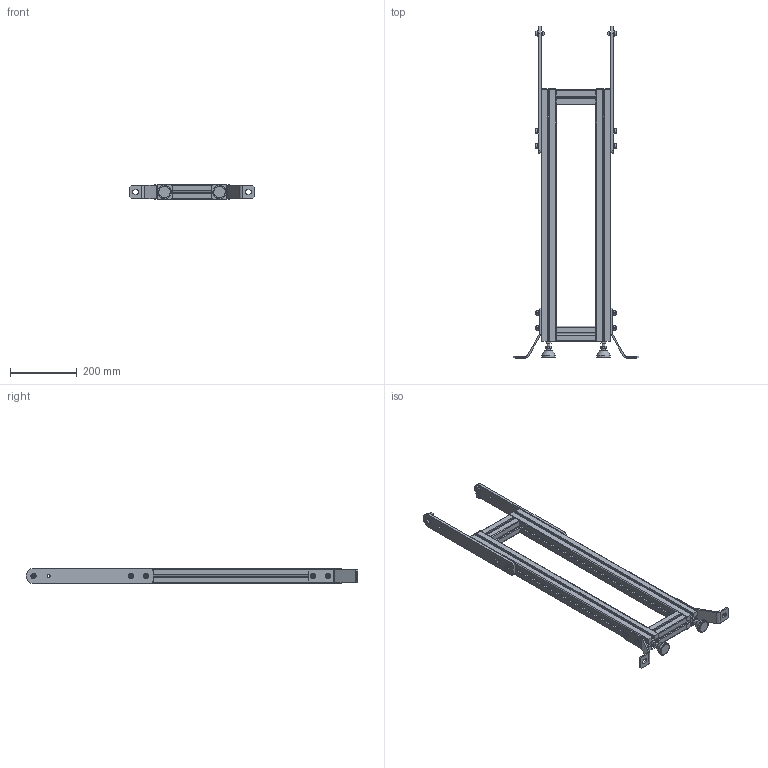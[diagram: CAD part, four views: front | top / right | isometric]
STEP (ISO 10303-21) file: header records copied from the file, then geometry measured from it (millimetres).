
FILE_DESCRIPTION (( 'STEP AP214' ), '1' );
FILE_NAME ('983-008-200.STEP', '2020-11-23T09:01:31', ( '' ), ( '' ), 'SwSTEP 2.0', 'SolidWorks 2020', '' );
FILE_SCHEMA (( 'AUTOMOTIVE_DESIGN' ));
Length unit declared in the file: millimetre
Products named in the file (15): 910-100; 910-002_910-235; 905-021; CHASSIS JAMBAGE TB52 200_D‚faut[Brut d''usinage]; CHC M8X20 + RP8; 983-007; EMBOUT_915-010; 982-017; 935-016; 935-055SV; CHC THE_910-052H; 983-008-200; 905-020; 935-055; RONDELLE_910-111
Assembly tree (22 placements, depth 4):
  983-008-200
    CHASSIS JAMBAGE TB52 200_D‚faut[Brut d''usinage]
    935-055  x2
      935-055SV
      910-100
      910-002_910-235
    EMBOUT_915-010  x2
    983-007  x2
      CHC M8X20 + RP8
        CHC THE_910-052H
        RONDELLE_910-111
      905-020
      905-021
      982-017
    935-016  x2
Bounding box: 376 x 996.5 x 45 mm (x, y, z)
Volume: 2673240.3 mm3; surface area: 790816.2 mm2
Topology: 36 solids, 36 shells, 784 faces, 1912 edges, 1216 vertices
Faces by surface type: plane 530, cylinder 160, cone 72, torus 12, sphere 8, bspline 2
Full cylindrical faces by diameter (mm): 6 x6, 6.8 x10, 7.3 x4, 7.98 x6, 8 x14, 8.4 x6, 8.5 x8, 9 x4, 13 x6, 16 x6, 17 x4, 34 x2, 40 x2
Entity records: 11805 total; most frequent: CARTESIAN_POINT 2065, DIRECTION 1858, ORIENTED_EDGE 1828, EDGE_CURVE 914, VECTOR 732, LINE 732, VERTEX_POINT 618, AXIS2_PLACEMENT_3D 563
